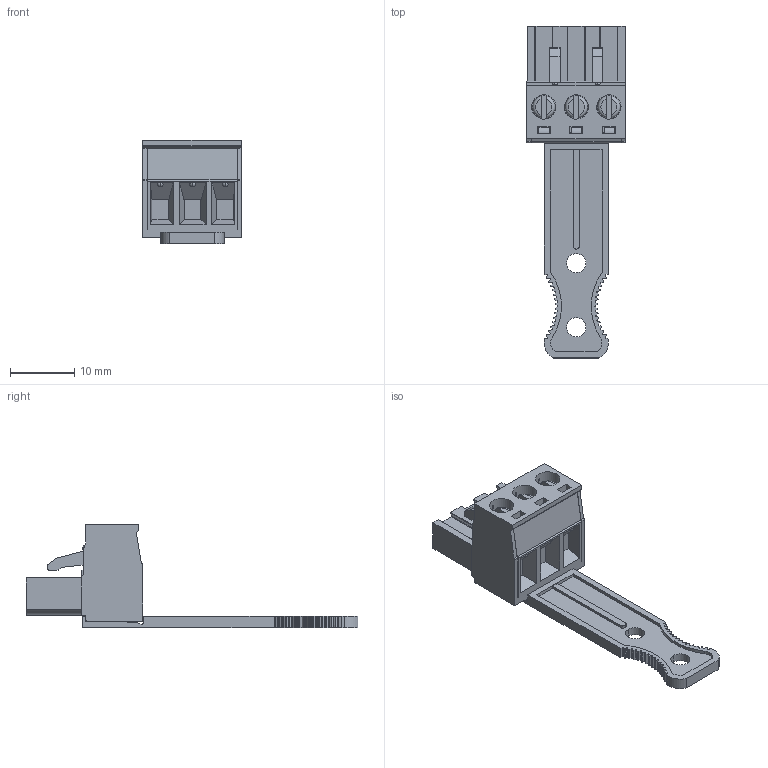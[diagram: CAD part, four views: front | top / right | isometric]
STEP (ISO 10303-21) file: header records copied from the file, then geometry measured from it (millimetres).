
FILE_DESCRIPTION((''),'2;1');
FILE_NAME('3','2019-04-04T',('zhenbing.lai'),(''),'CREO PARAMETRIC BY PTC INC, 2016260','CREO PARAMETRIC BY PTC INC, 2016260','');
FILE_SCHEMA(('CONFIG_CONTROL_DESIGN'));
Length unit declared in the file: millimetre
Products named in the file (1): 3
Bounding box: 15.34 x 51.8 x 16.1 mm (x, y, z)
Volume: 3007.1 mm3; surface area: 2994.2 mm2
Topology: 1 solids, 7 shells, 535 faces, 1636 edges, 1114 vertices
Faces by surface type: plane 335, cylinder 163, cone 21, sphere 10, torus 6
Entity records: 18772 total; most frequent: CARTESIAN_POINT 3663, ORIENTED_EDGE 3252, DIRECTION 3148, EDGE_CURVE 1626, VERTEX_POINT 1114, VECTOR 1050, LINE 1050, AXIS2_PLACEMENT_3D 1049
